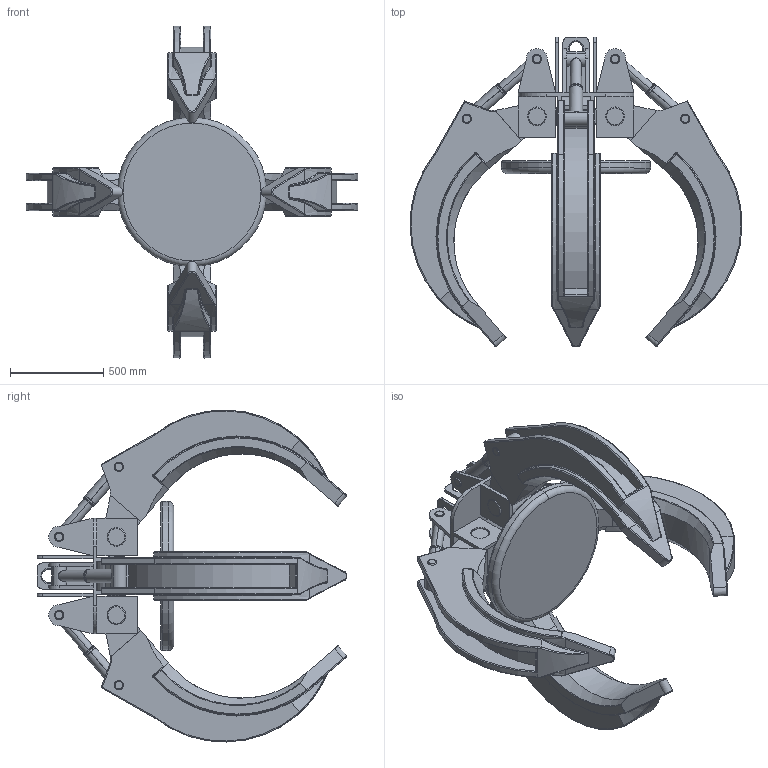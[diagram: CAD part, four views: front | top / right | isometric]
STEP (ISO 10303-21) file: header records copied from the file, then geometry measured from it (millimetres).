
FILE_DESCRIPTION (( 'STEP AP203' ), '1' );
FILE_NAME ('assembly.step', '2026-07-08T17:02:03', ( '' ), ( '' ), 'SwSTEP 2.0', 'SolidWorks 2022', '' );
FILE_SCHEMA (( 'CONFIG_CONTROL_DESIGN' ));
Length unit declared in the file: millimetre
Products named in the file (8): assembly; part5; Part3; klin100_200; Part1; Part6; klin50_200; klin50_140
Assembly tree (25 placements, depth 2):
  assembly
    Part1
    Part3  x4
    part5  x4
    Part6  x4
    klin50_140  x4
    klin50_200  x4
    klin100_200  x4
Bounding box: 1782.25 x 1662.22 x 1782.25 mm (x, y, z)
Volume: 289148918.7 mm3; surface area: 12394083.6 mm2
Topology: 25 solids, 25 shells, 778 faces, 1864 edges, 1150 vertices
Faces by surface type: cylinder 308, plane 248, torus 150, bspline 56, sphere 16
Entity records: 12920 total; most frequent: CARTESIAN_POINT 3646, DIRECTION 1742, ORIENTED_EDGE 1608, EDGE_CURVE 804, AXIS2_PLACEMENT_3D 664, VERTEX_POINT 500, VECTOR 414, LINE 414
